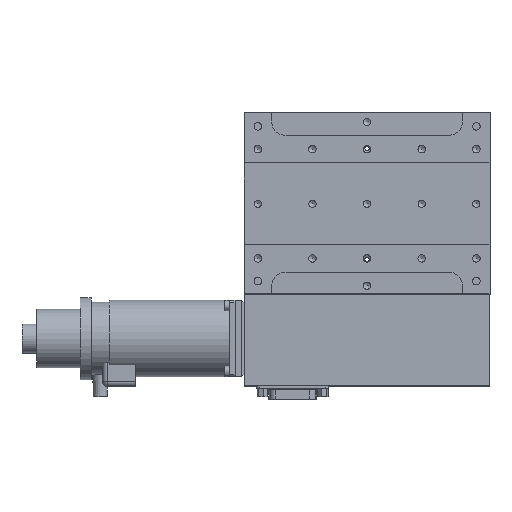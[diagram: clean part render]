
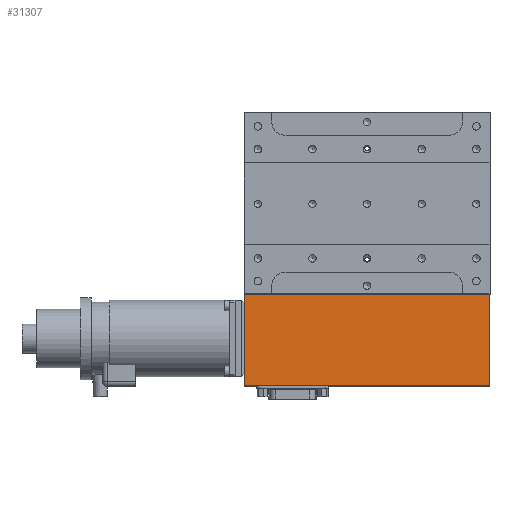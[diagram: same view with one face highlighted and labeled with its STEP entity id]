
A CAD part, top view. The second image highlights one B-rep face of the part: STEP entity #31307.
In plain terms, the highlighted planar face has unit normal (0, 0, 1).
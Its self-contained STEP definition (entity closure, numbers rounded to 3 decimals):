
#4154=FACE_OUTER_BOUND('',#6047,.T.);
#6047=EDGE_LOOP('',(#23113,#23114,#23115,#23116));
#8200=LINE('',#49348,#10488);
#8226=LINE('',#49460,#10514);
#8227=LINE('',#49462,#10515);
#8228=LINE('',#49463,#10516);
#10488=VECTOR('',#39542,10.);
#10514=VECTOR('',#39662,10.);
#10515=VECTOR('',#39663,10.);
#10516=VECTOR('',#39664,10.);
#13104=VERTEX_POINT('',#49341);
#13107=VERTEX_POINT('',#49346);
#13146=VERTEX_POINT('',#49459);
#13147=VERTEX_POINT('',#49461);
#16715=EDGE_CURVE('',#13107,#13104,#8200,.T.);
#16767=EDGE_CURVE('',#13146,#13104,#8226,.T.);
#16768=EDGE_CURVE('',#13107,#13147,#8227,.T.);
#16769=EDGE_CURVE('',#13147,#13146,#8228,.T.);
#23113=ORIENTED_EDGE('',*,*,#16767,.T.);
#23114=ORIENTED_EDGE('',*,*,#16715,.F.);
#23115=ORIENTED_EDGE('',*,*,#16768,.T.);
#23116=ORIENTED_EDGE('',*,*,#16769,.T.);
#28316=PLANE('',#34055);
#31307=ADVANCED_FACE('',(#4154),#28316,.T.);
#34055=AXIS2_PLACEMENT_3D('',#49458,#39660,#39661);
#39542=DIRECTION('',(1.,0.,0.));
#39660=DIRECTION('center_axis',(0.,0.,
1.));
#39661=DIRECTION('ref_axis',(-1.,0.,0.));
#39662=DIRECTION('',(0.,1.,0.));
#39663=DIRECTION('',(0.,-1.,0.));
#39664=DIRECTION('',(1.,0.,0.));
#49341=CARTESIAN_POINT('',(135.,-50.,37.5));
#49346=CARTESIAN_POINT('',(0.,-50.,37.5));
#49348=CARTESIAN_POINT('',(0.,-50.,37.5));
#49458=CARTESIAN_POINT('Origin',(0.,-100.,37.5));
#49459=CARTESIAN_POINT('',(135.,-100.,37.5));
#49460=CARTESIAN_POINT('',(135.,-50.,37.5));
#49461=CARTESIAN_POINT('',(0.,-100.,37.5));
#49462=CARTESIAN_POINT('',(0.,-50.,37.5));
#49463=CARTESIAN_POINT('',(0.,-100.,37.5));
